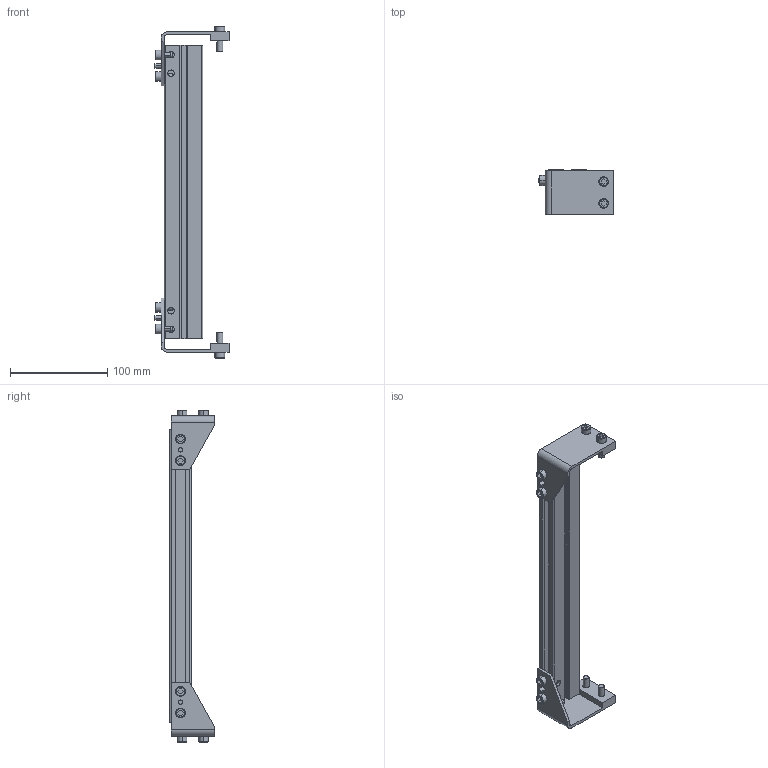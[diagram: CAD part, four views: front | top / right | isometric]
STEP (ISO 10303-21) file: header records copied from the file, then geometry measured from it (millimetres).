
FILE_DESCRIPTION((''),'2;1');
FILE_NAME('3076WWM_2_ASM','2023-03-15T',('jenni.wallner'),(''),'PRO/ENGINEER BY PARAMETRIC TECHNOLOGY CORPORATION, 2012420','PRO/ENGINEER BY PARAMETRIC TECHNOLOGY CORPORATION, 2012420','');
FILE_SCHEMA(('CONFIG_CONTROL_DESIGN'));
Length unit declared in the file: inch
Products named in the file (4): 677721_1; BRACKET_L; BRACKET_R; 3076WWM_2_ASM
Assembly tree (3 placements, depth 2):
  3076WWM_2_ASM
    677721_1
    BRACKET_L
    BRACKET_R
Bounding box: 76.2 x 46.13 x 341.62 mm (x, y, z)
Volume: 167506.5 mm3; surface area: 102136.8 mm2
Topology: 3 solids, 3 shells, 296 faces, 730 edges, 476 vertices
Faces by surface type: plane 188, cylinder 76, cone 32
Entity records: 8834 total; most frequent: DIRECTION 1520, CARTESIAN_POINT 1509, ORIENTED_EDGE 1460, EDGE_CURVE 730, VECTOR 546, LINE 546, AXIS2_PLACEMENT_3D 487, VERTEX_POINT 476
